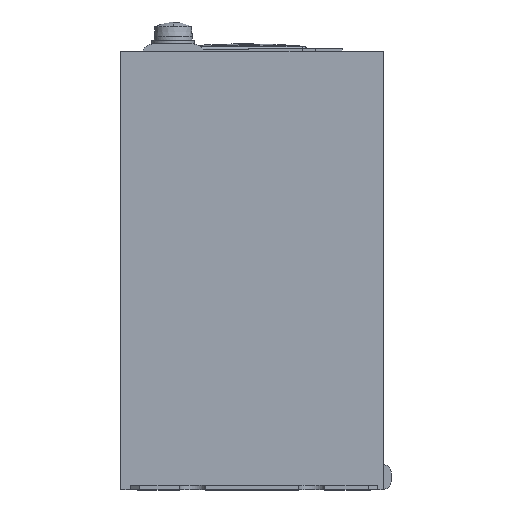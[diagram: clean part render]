
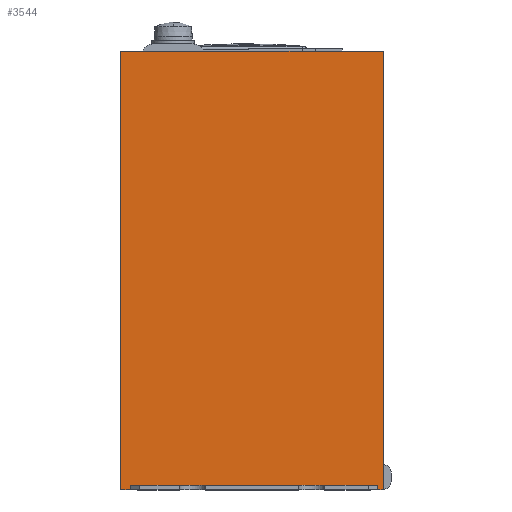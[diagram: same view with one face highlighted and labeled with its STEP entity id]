
A CAD part, front view. The second image highlights one B-rep face of the part: STEP entity #3544.
In plain terms, the highlighted planar face has unit normal (0, -1, 0).
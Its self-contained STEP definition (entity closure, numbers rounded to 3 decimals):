
#19 = VERTEX_POINT ( 'NONE', #4317 ) ;
#54 = VECTOR ( 'NONE', #6055, 1000. ) ;
#85 = EDGE_CURVE ( 'NONE', #5141, #5510, #5405, .T. ) ;
#99 = ORIENTED_EDGE ( 'NONE', *, *, #1200, .F. ) ;
#140 = CARTESIAN_POINT ( 'NONE',  ( 2., 0., 1. ) ) ;
#192 = CARTESIAN_POINT ( 'NONE',  ( 55., 0., 92. ) ) ;
#521 = CARTESIAN_POINT ( 'NONE',  ( 53.9, 0., 0. ) ) ;
#535 = VECTOR ( 'NONE', #2210, 1000. ) ;
#550 = CARTESIAN_POINT ( 'NONE',  ( 2., 0., 92. ) ) ;
#640 = VECTOR ( 'NONE', #2059, 1000. ) ;
#988 = EDGE_CURVE ( 'NONE', #5485, #4735, #4945, .T. ) ;
#1194 = AXIS2_PLACEMENT_3D ( 'NONE', #5248, #1661, #2701 ) ;
#1200 = EDGE_CURVE ( 'NONE', #1316, #3831, #2563, .T. ) ;
#1285 = EDGE_CURVE ( 'NONE', #3131, #4735, #4077, .T. ) ;
#1304 = DIRECTION ( 'NONE',  ( 1., 0., 0. ) ) ;
#1316 = VERTEX_POINT ( 'NONE', #2293 ) ;
#1449 = FACE_OUTER_BOUND ( 'NONE', #6528, .T. ) ;
#1607 = CARTESIAN_POINT ( 'NONE',  ( 0., 0., 92. ) ) ;
#1661 = DIRECTION ( 'NONE',  ( 0., -1., 0. ) ) ;
#2059 = DIRECTION ( 'NONE',  ( 0., 0., 1. ) ) ;
#2080 = ORIENTED_EDGE ( 'NONE', *, *, #5229, .F. ) ;
#2173 = LINE ( 'NONE', #4524, #54 ) ;
#2210 = DIRECTION ( 'NONE',  ( 0., 0., -1. ) ) ;
#2293 = CARTESIAN_POINT ( 'NONE',  ( 0., 0., 0. ) ) ;
#2370 = EDGE_CURVE ( 'NONE', #3131, #19, #2173, .T. ) ;
#2444 = ORIENTED_EDGE ( 'NONE', *, *, #85, .F. ) ;
#2532 = VECTOR ( 'NONE', #5079, 1000. ) ;
#2563 = LINE ( 'NONE', #1607, #640 ) ;
#2701 = DIRECTION ( 'NONE',  ( 0., 0., -1. ) ) ;
#2895 = EDGE_CURVE ( 'NONE', #1316, #5510, #5671, .T. ) ;
#3091 = PLANE ( 'NONE',  #1194 ) ;
#3131 = VERTEX_POINT ( 'NONE', #521 ) ;
#3328 = ORIENTED_EDGE ( 'NONE', *, *, #5319, .F. ) ;
#3395 = CARTESIAN_POINT ( 'NONE',  ( 0., 0., 92. ) ) ;
#3544 = ADVANCED_FACE ( 'NONE', ( #1449 ), #3091, .T. ) ;
#3561 = CARTESIAN_POINT ( 'NONE',  ( 55., 0., 0. ) ) ;
#3831 = VERTEX_POINT ( 'NONE', #3395 ) ;
#3993 = ORIENTED_EDGE ( 'NONE', *, *, #2895, .T. ) ;
#4025 = VECTOR ( 'NONE', #6754, 1000. ) ;
#4070 = VECTOR ( 'NONE', #4714, 1000. ) ;
#4077 = LINE ( 'NONE', #5558, #5402 ) ;
#4185 = LINE ( 'NONE', #6393, #4070 ) ;
#4317 = CARTESIAN_POINT ( 'NONE',  ( 53.9, 0., 1. ) ) ;
#4524 = CARTESIAN_POINT ( 'NONE',  ( 53.9, 0., 92. ) ) ;
#4614 = CARTESIAN_POINT ( 'NONE',  ( -240.308, 0., 1. ) ) ;
#4714 = DIRECTION ( 'NONE',  ( 1., 0., 0. ) ) ;
#4735 = VERTEX_POINT ( 'NONE', #3561 ) ;
#4743 = CARTESIAN_POINT ( 'NONE',  ( -240.308, 0., 0. ) ) ;
#4945 = LINE ( 'NONE', #6522, #535 ) ;
#5079 = DIRECTION ( 'NONE',  ( 0., 0., -1. ) ) ;
#5141 = VERTEX_POINT ( 'NONE', #140 ) ;
#5205 = LINE ( 'NONE', #4614, #5429 ) ;
#5229 = EDGE_CURVE ( 'NONE', #19, #5141, #5205, .T. ) ;
#5248 = CARTESIAN_POINT ( 'NONE',  ( -240.308, 0., 92. ) ) ;
#5319 = EDGE_CURVE ( 'NONE', #3831, #5485, #4185, .T. ) ;
#5402 = VECTOR ( 'NONE', #1304, 1000. ) ;
#5405 = LINE ( 'NONE', #550, #2532 ) ;
#5429 = VECTOR ( 'NONE', #6144, 1000. ) ;
#5477 = ORIENTED_EDGE ( 'NONE', *, *, #988, .F. ) ;
#5485 = VERTEX_POINT ( 'NONE', #192 ) ;
#5510 = VERTEX_POINT ( 'NONE', #6101 ) ;
#5558 = CARTESIAN_POINT ( 'NONE',  ( -240.308, 0., 0. ) ) ;
#5671 = LINE ( 'NONE', #4743, #4025 ) ;
#6055 = DIRECTION ( 'NONE',  ( 0., 0., 1. ) ) ;
#6101 = CARTESIAN_POINT ( 'NONE',  ( 2., 0., 0. ) ) ;
#6144 = DIRECTION ( 'NONE',  ( -1., 0., 0. ) ) ;
#6393 = CARTESIAN_POINT ( 'NONE',  ( -240.308, 0., 92. ) ) ;
#6522 = CARTESIAN_POINT ( 'NONE',  ( 55., 0., 92. ) ) ;
#6528 = EDGE_LOOP ( 'NONE', ( #5477, #3328, #99, #3993, #2444, #2080, #6907, #6651 ) ) ;
#6651 = ORIENTED_EDGE ( 'NONE', *, *, #1285, .T. ) ;
#6754 = DIRECTION ( 'NONE',  ( 1., 0., 0. ) ) ;
#6907 = ORIENTED_EDGE ( 'NONE', *, *, #2370, .F. ) ;
